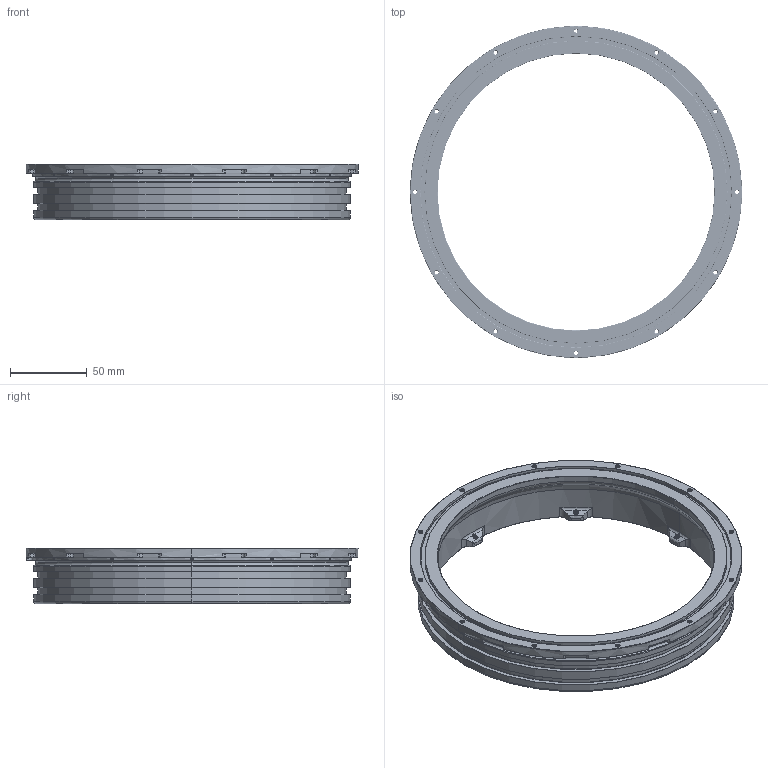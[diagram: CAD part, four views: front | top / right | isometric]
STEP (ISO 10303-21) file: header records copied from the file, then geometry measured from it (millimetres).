
FILE_DESCRIPTION (( 'STEP AP214' ), '1' );
FILE_NAME ('WTE8-LOCKING-FLANGE.STEP', '2023-11-16T21:32:15', ( '' ), ( '' ), 'SwSTEP 2.0', 'SolidWorks 2022', '' );
FILE_SCHEMA (( 'AUTOMOTIVE_DESIGN' ));
Products named in the file (1): WTE8-LOCKING-FLANGE
Bounding box: 215.7 x 215.7 x 36 mm (x, y, z)
Volume: 199964.5 mm3; surface area: 76715.3 mm2
Topology: 1 solids, 1 shells, 1430 faces, 4104 edges, 2671 vertices
Faces by surface type: cylinder 746, bspline 294, cone 230, plane 118, torus 42
Entity records: 247159 total; most frequent: CARTESIAN_POINT 216374, ORIENTED_EDGE 8208, DIRECTION 4717, EDGE_CURVE 4104, VERTEX_POINT 2671, AXIS2_PLACEMENT_3D 1780, EDGE_LOOP 1467, ADVANCED_FACE 1430
